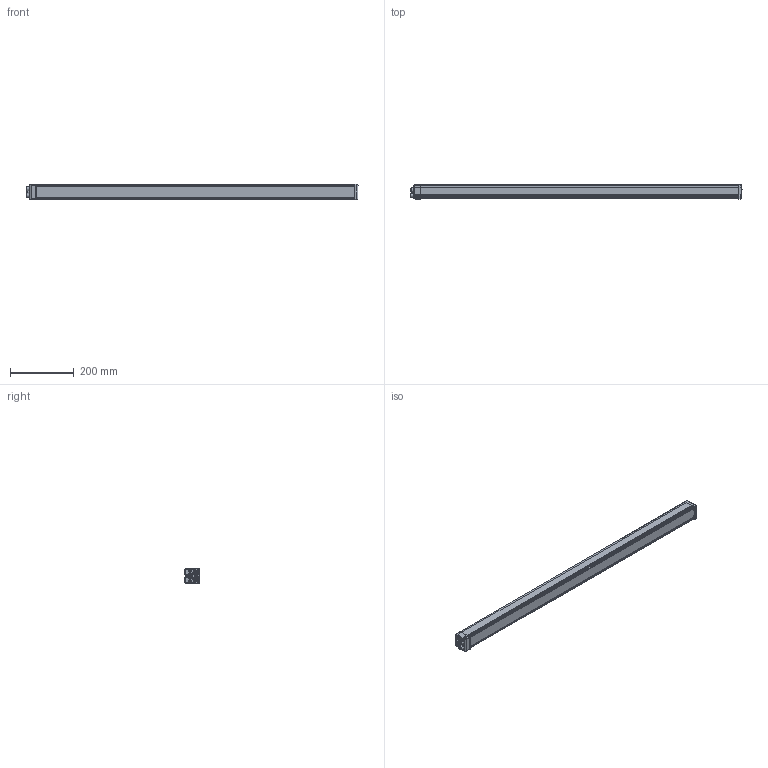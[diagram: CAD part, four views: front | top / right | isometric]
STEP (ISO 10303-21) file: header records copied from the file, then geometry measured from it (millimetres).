
FILE_DESCRIPTION(/* description */ (''),/* implementation_level */ '2;1');
FILE_NAME(/* name */ 'C:\#Vault-WorkDir\Konstruktions-Dokumente\Projekte\VISOR\Zubehör\153-01222_LB 1000 xK-24--Axx-2L5.stp',/* time_stamp */ '2016-04-29T10:15:58+02:00',/* author */ ('Sandra.Stahl'),/* organization */ (''),/* preprocessor_version */ 'ST-DEVELOPER v16.1',/* originating_system */ 'Autodesk Inventor 2016',/* authorisation */ '');
FILE_SCHEMA (('AUTOMOTIVE_DESIGN { 1 0 10303 214 3 1 1 }'));
Length unit declared in the file: millimetre
Products named in the file (1): GH-ENG-0015492
Bounding box: 1045.05 x 45 x 47.63 mm (x, y, z)
Volume: 1531248.8 mm3; surface area: 420983.2 mm2
Topology: 1 solids, 2 shells, 1031 faces, 2624 edges, 1654 vertices
Faces by surface type: plane 464, cylinder 283, bspline 154, cone 63, torus 53, sphere 14
Full cylindrical faces by diameter (mm): 1 x10, 8 x4, 8.25 x1, 8.3 x2, 8.8 x1, 8.9 x1, 9.5 x1, 10.75 x2, 12 x2, 14 x1, 16 x3
Entity records: 41121 total; most frequent: CARTESIAN_POINT 16086, ORIENTED_EDGE 5040, DIRECTION 4862, EDGE_CURVE 2520, AXIS2_PLACEMENT_3D 1732, VERTEX_POINT 1641, LINE 1398, VECTOR 1398
